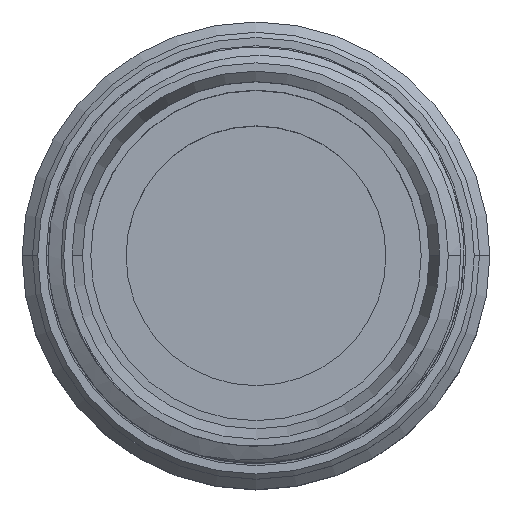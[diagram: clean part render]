
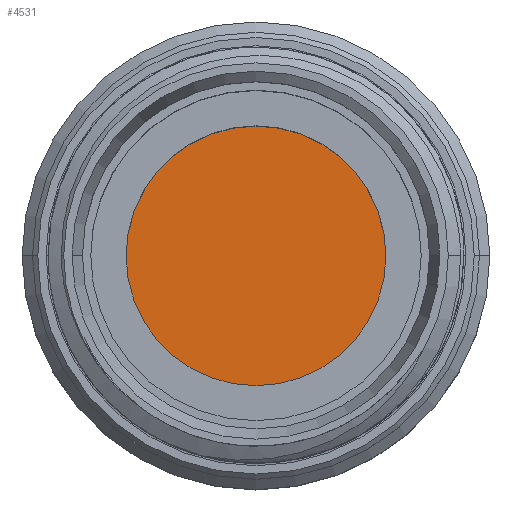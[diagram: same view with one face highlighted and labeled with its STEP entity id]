
A CAD part, top view. The second image highlights one B-rep face of the part: STEP entity #4531.
In plain terms, the highlighted planar face has unit normal (0, 0, 1).
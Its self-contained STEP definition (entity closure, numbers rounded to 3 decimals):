
#626 = CARTESIAN_POINT ( 'NONE',  ( -6.25, 0., -8. ) ) ;
#725 = DIRECTION ( 'NONE',  ( 0., 0., -1. ) ) ;
#790 = PLANE ( 'NONE',  #3905 ) ;
#826 = CARTESIAN_POINT ( 'NONE',  ( 0., 0., -8. ) ) ;
#872 = DIRECTION ( 'NONE',  ( 1., 0., 0. ) ) ;
#1227 = CARTESIAN_POINT ( 'NONE',  ( 6.25, 0., -8. ) ) ;
#1305 = ORIENTED_EDGE ( 'NONE', *, *, #3631, .T. ) ;
#1676 = CIRCLE ( 'NONE', #4586, 6.25 ) ;
#1908 = AXIS2_PLACEMENT_3D ( 'NONE', #826, #2992, #2678 ) ;
#1917 = CARTESIAN_POINT ( 'NONE',  ( 0., 0., -8. ) ) ;
#2216 = DIRECTION ( 'NONE',  ( 0., -1., 0. ) ) ;
#2409 = VERTEX_POINT ( 'NONE', #1227 ) ;
#2678 = DIRECTION ( 'NONE',  ( 1., 0., 0. ) ) ;
#2992 = DIRECTION ( 'NONE',  ( 0., 0., 1. ) ) ;
#3133 = CIRCLE ( 'NONE', #1908, 6.25 ) ;
#3241 = EDGE_LOOP ( 'NONE', ( #1305, #4027 ) ) ;
#3515 = EDGE_CURVE ( 'NONE', #4658, #2409, #3133, .T. ) ;
#3631 = EDGE_CURVE ( 'NONE', #2409, #4658, #1676, .T. ) ;
#3731 = FACE_OUTER_BOUND ( 'NONE', #3241, .T. ) ;
#3905 = AXIS2_PLACEMENT_3D ( 'NONE', #4440, #725, #2216 ) ;
#4027 = ORIENTED_EDGE ( 'NONE', *, *, #3515, .T. ) ;
#4440 = CARTESIAN_POINT ( 'NONE',  ( 0., 6.25, -8. ) ) ;
#4457 = DIRECTION ( 'NONE',  ( 0., 0., 1. ) ) ;
#4531 = ADVANCED_FACE ( 'NONE', ( #3731 ), #790, .F. ) ;
#4586 = AXIS2_PLACEMENT_3D ( 'NONE', #1917, #4457, #872 ) ;
#4658 = VERTEX_POINT ( 'NONE', #626 ) ;
